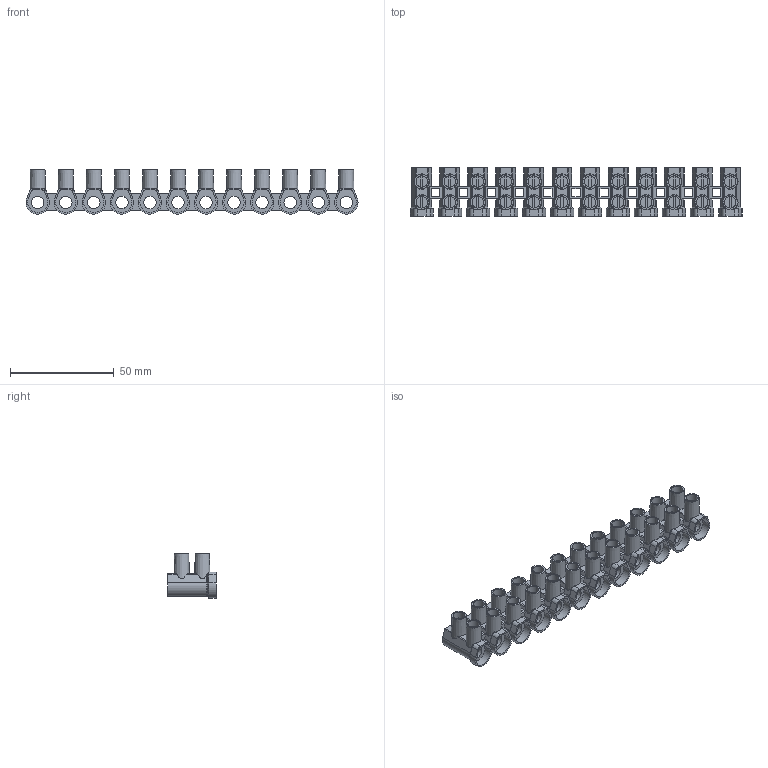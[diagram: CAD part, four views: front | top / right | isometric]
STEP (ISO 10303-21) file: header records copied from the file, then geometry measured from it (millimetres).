
FILE_DESCRIPTION(/* description */ ('Unknown'),/* implementation_level */ '2;1');
FILE_NAME(/* name */ 'MT 116 N',/* time_stamp */ '2021-10-08T10:20:04+02:00',/* author */ ('Unknown'),/* organization */ ('Unknown'),/* preprocessor_version */ 'ST-DEVELOPER v16.7',/* originating_system */ 'Solid Edge',/* authorisation */ 'Unknown');
FILE_SCHEMA (('AUTOMOTIVE_DESIGN {1 0 10303 214 3 1 1}'));
Length unit declared in the file: millimetre
Products named in the file (1): MT 116 N
Bounding box: 159.8 x 23.3 x 21.35 mm (x, y, z)
Volume: 21428.3 mm3; surface area: 26528.8 mm2
Topology: 1 solids, 1 shells, 770 faces, 2076 edges, 1356 vertices
Faces by surface type: plane 506, cylinder 204, cone 60
Full cylindrical faces by diameter (mm): 5.5 x24, 6 x12
Entity records: 23554 total; most frequent: CARTESIAN_POINT 4575, ORIENTED_EDGE 3912, DIRECTION 3878, EDGE_CURVE 1956, AXIS2_PLACEMENT_3D 1319, VERTEX_POINT 1296, LINE 1240, VECTOR 1240
